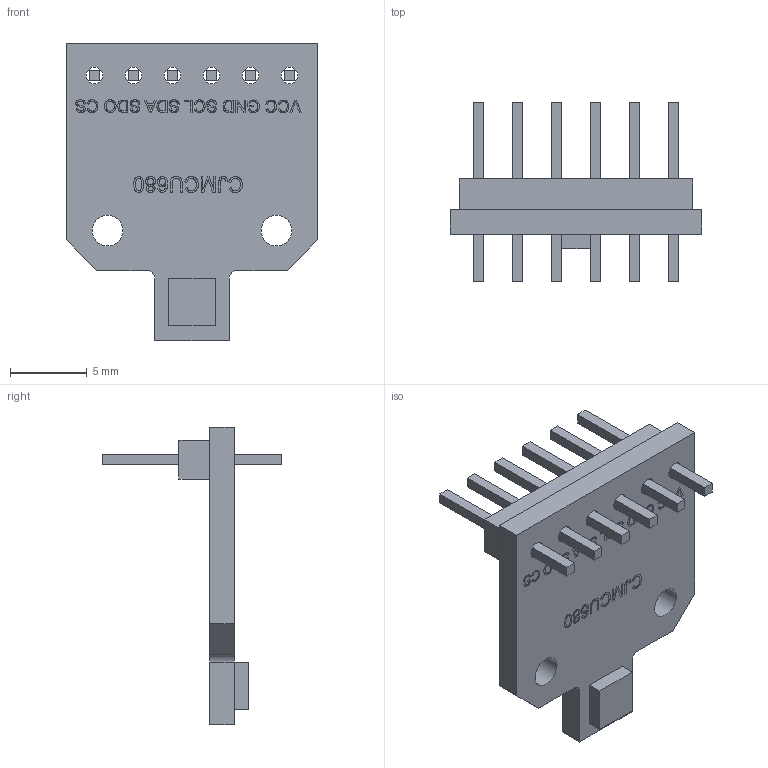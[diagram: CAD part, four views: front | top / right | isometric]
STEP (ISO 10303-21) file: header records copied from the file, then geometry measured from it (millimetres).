
FILE_DESCRIPTION(/* description */ (''),/* implementation_level */ '2;1');
FILE_NAME(/* name */ 'C:/Users/mak/Desktop/乾燥実験/KiCAD/部品図面/CJMCU-680 v3.step',/* time_stamp */ '2022-05-09T21:25:32+09:00',/* author */ (''),/* organization */ (''),/* preprocessor_version */ 'ST-DEVELOPER v18.1',/* originating_system */ 'Autodesk Translation Framework v10.14.0.1471',/* authorisation */ '');
FILE_SCHEMA (('AUTOMOTIVE_DESIGN { 1 0 10303 214 3 1 1 }'));
Products named in the file (1): CJMCU-680
Bounding box: 16.4 x 11.7 x 19.37 mm (x, y, z)
Volume: 507.3 mm3; surface area: 1106.4 mm2
Topology: 34 solids, 34 shells, 1264 faces, 3486 edges, 2324 vertices
Faces by surface type: bspline 900, plane 348, cylinder 16
Full cylindrical faces by diameter (mm): 1.1 x12, 2 x2
Entity records: 48541 total; most frequent: CARTESIAN_POINT 22375, ORIENTED_EDGE 6972, EDGE_CURVE 3486, DIRECTION 2448, VERTEX_POINT 2324, B_SPLINE_CURVE_WITH_KNOTS 1800, LINE 1654, VECTOR 1654
